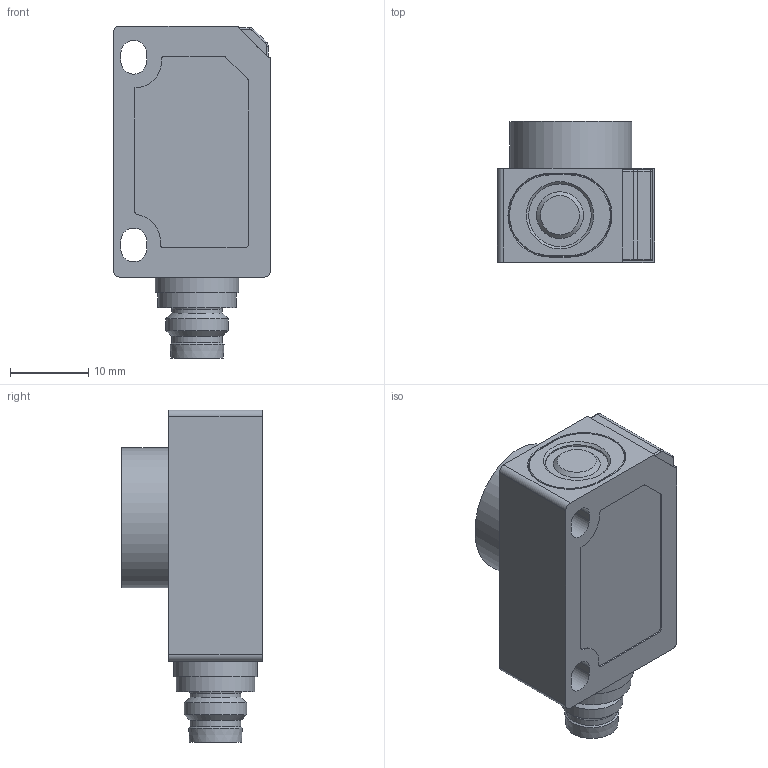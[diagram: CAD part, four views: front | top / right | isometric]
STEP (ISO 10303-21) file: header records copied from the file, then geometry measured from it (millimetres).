
FILE_DESCRIPTION((''),'2;1');
FILE_NAME('J:\Projekte\Kunststoff-Blechteile\Zeichnungen\Bibliothek Inventor\3D Solids\zws\STP\zws-35_CX_QS.stp','2014-11-18T15:14:30',('Oliver Liedtke'),(''),'Autodesk Inventor 2013','Autodesk Inventor 2013','');
FILE_SCHEMA(('CONFIG_CONTROL_DESIGN'));
Length unit declared in the file: millimetre
Products named in the file (1): zws-35_CX_QS
Bounding box: 20.11 x 18 x 42.45 mm (x, y, z)
Volume: 9131.1 mm3; surface area: 3552.4 mm2
Topology: 1 solids, 1 shells, 117 faces, 279 edges, 177 vertices
Faces by surface type: plane 58, cylinder 39, cone 10, torus 5, sphere 4, bspline 1
Full cylindrical faces by diameter (mm): 1 x4, 6.5 x2, 8 x2, 10 x2, 10.7 x1, 13.4 x1
Entity records: 3372 total; most frequent: DIRECTION 580, CARTESIAN_POINT 557, ORIENTED_EDGE 500, EDGE_CURVE 250, AXIS2_PLACEMENT_3D 213, VERTEX_POINT 172, EDGE_LOOP 158, VECTOR 154
